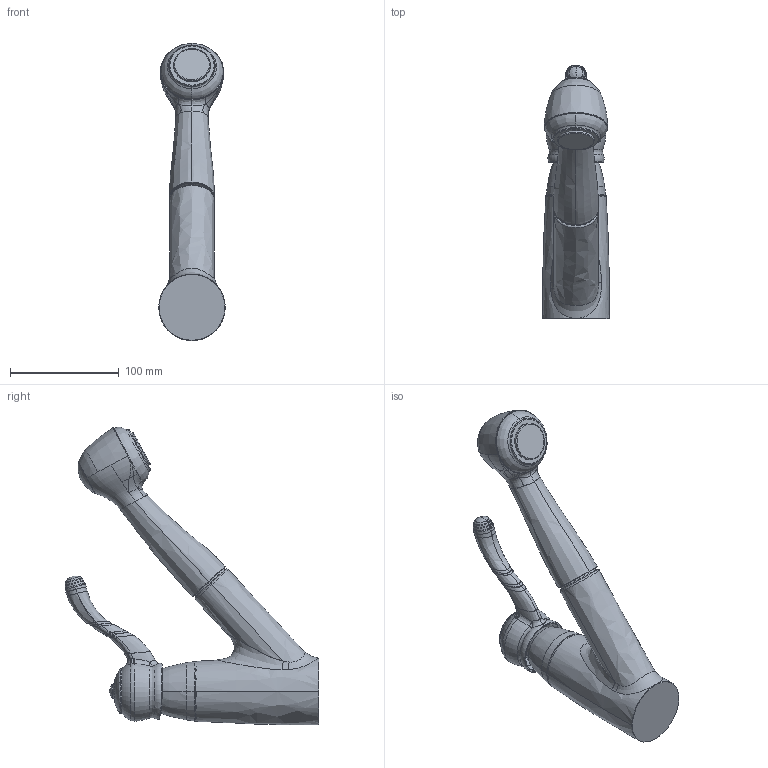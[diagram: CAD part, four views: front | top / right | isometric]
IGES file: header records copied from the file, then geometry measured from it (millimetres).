
Start section:  PTC IGES file: sku_7575.igs
Global section: file name: sku_7575.igs; native system: Pro/ENGINEER by Parametric Technology Corporation; preprocessor: 2006460; author: 9dutterb; organization: Unknown; date: 20071107.110638; units: inch
Bounding box: 61.08 x 232.79 x 272.91 mm (x, y, z)
Surface area: 97548.1 mm2 (no closed solid volume)
Topology: 0 solids, 0 shells, 503 faces, 2561 edges, 2559 vertices
Faces by surface type: bspline 257, revolution 242, extrusion 4
